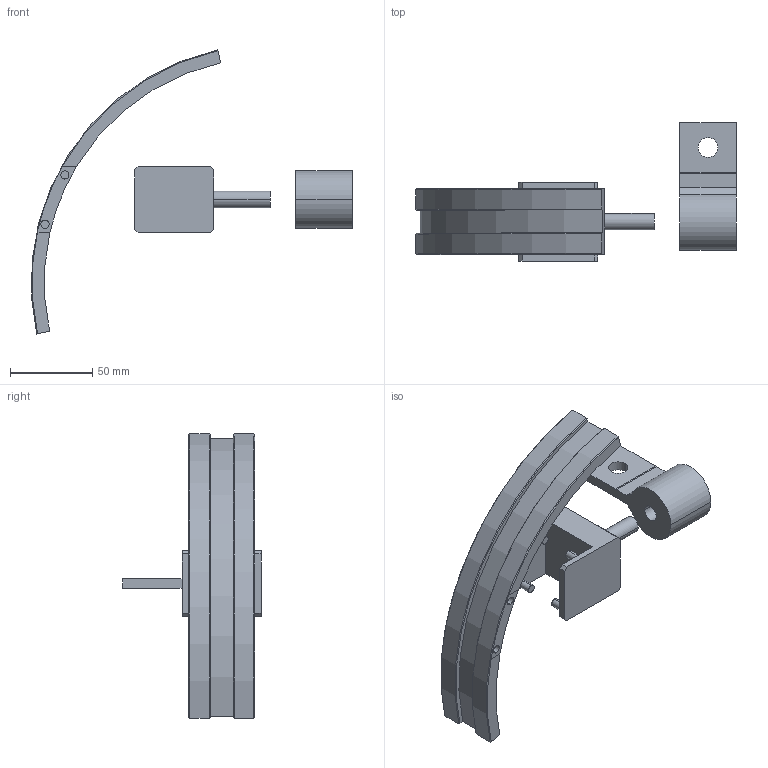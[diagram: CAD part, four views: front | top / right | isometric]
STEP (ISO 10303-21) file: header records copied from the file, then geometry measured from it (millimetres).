
FILE_DESCRIPTION(('Open CASCADE Model'),'2;1');
FILE_NAME('Open CASCADE Shape Model','2010-01-30T12:50:21',('Author'),( 'Open CASCADE'),'Open CASCADE STEP processor 6.3','Open CASCADE 6.3' ,'Unknown');
FILE_SCHEMA(('AUTOMOTIVE_DESIGN_CC2 { 1 2 10303 214 -1 1 5 4 }'));
Length unit declared in the file: millimetre
Products named in the file (4): Open CASCADE STEP translator 6.3 2; Open CASCADE STEP translator 6.3 2.1; Open CASCADE STEP translator 6.3 2.2; Open CASCADE STEP translator 6.3 2.3
Assembly tree (3 placements, depth 2):
  Open CASCADE STEP translator 6.3 2
    Open CASCADE STEP translator 6.3 2.1
    Open CASCADE STEP translator 6.3 2.2
    Open CASCADE STEP translator 6.3 2.3
Bounding box: 195.27 x 84.14 x 172.89 mm (x, y, z)
Volume: 150182.7 mm3; surface area: 47350.7 mm2
Topology: 3 solids, 3 shells, 78 faces, 191 edges, 128 vertices
Faces by surface type: plane 44, cylinder 30, cone 4
Entity records: 5342 total; most frequent: CARTESIAN_POINT 1599, DIRECTION 645, ORIENTED_EDGE 382, PCURVE 382, DEFINITIONAL_REPRESENTATION 382, LINE 289, VECTOR 289, EDGE_CURVE 191
